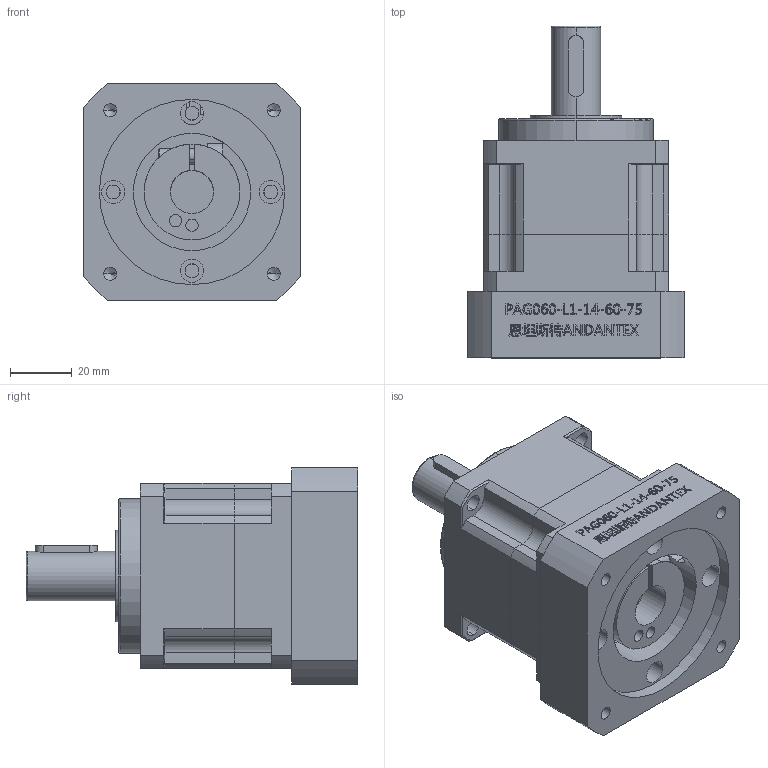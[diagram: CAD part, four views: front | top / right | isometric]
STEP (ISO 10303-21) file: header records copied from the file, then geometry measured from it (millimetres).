
FILE_DESCRIPTION (( 'STEP AP203' ), '1' );
FILE_NAME ('PAG60-L1-14-60-75.STEP', '2023-09-20T08:52:06', ( 'Windows User' ), ( 'P R C' ), 'SwSTEP 2.0', 'SolidWorks 2016', '' );
FILE_SCHEMA (( 'CONFIG_CONTROL_DESIGN' ));
Length unit declared in the file: millimetre
Products named in the file (6): PAG60-LJ 60-M5-75-LR32; PAG60-L1-14-60-75; PAG60俋倛芞奻裔啣_72T; PAG60外形图下盖板-分体-14; 邧埴瑩 5x5x20; 囀鞠褒蹟佪-M5℅16_1
Assembly tree (5 placements, depth 2):
  PAG60-L1-14-60-75
    PAG60俋倛芞奻裔啣_72T
    PAG60外形图下盖板-分体-14
    邧埴瑩 5x5x20
    囀鞠褒蹟佪-M5℅16_1
    PAG60-LJ 60-M5-75-LR32
Bounding box: 70 x 107.5 x 70 mm (x, y, z)
Volume: 251300.9 mm3; surface area: 58769.4 mm2
Topology: 6 solids, 6 shells, 833 faces, 2214 edges, 1454 vertices
Faces by surface type: plane 501, cylinder 152, bspline 144, cone 28, torus 8
Entity records: 32619 total; most frequent: CARTESIAN_POINT 12005, ORIENTED_EDGE 4392, DIRECTION 3619, EDGE_CURVE 2196, VECTOR 1503, LINE 1503, VERTEX_POINT 1454, AXIS2_PLACEMENT_3D 1058
